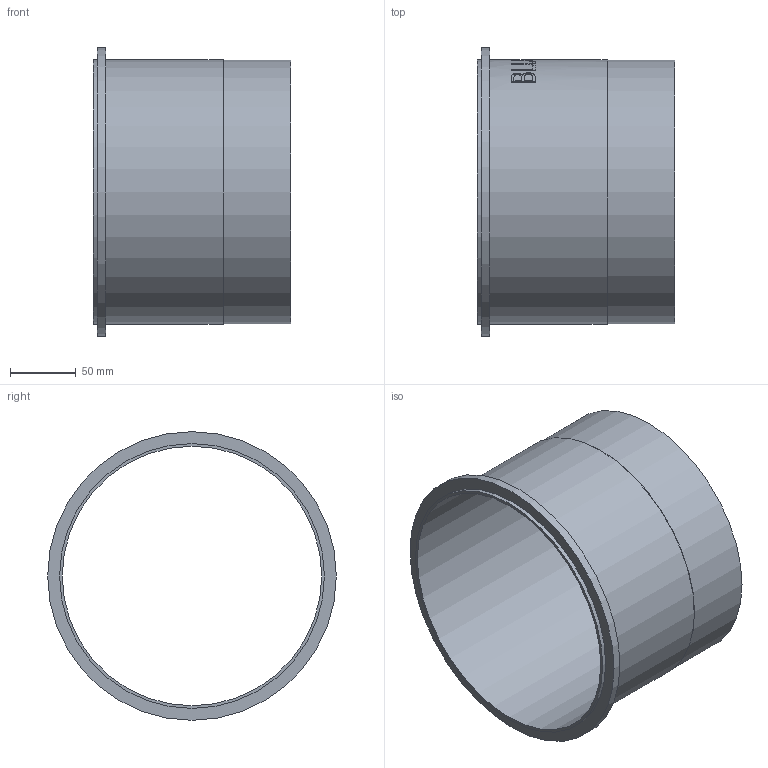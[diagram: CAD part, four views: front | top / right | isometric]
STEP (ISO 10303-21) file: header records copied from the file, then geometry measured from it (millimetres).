
FILE_DESCRIPTION((''),'2;1');
FILE_NAME('I:\WATTS\3D_CAD\3D_CAD_Models\Blucher_Drains\P_StraightPipe\WebsiteFiles\3D\STEP\P8-0.5-316.stp','2009-12-03T08:55:32',('menesek'),(''),'Autodesk Inventor 2010','Autodesk Inventor 2010','');
FILE_SCHEMA(('AUTOMOTIVE_DESIGN { 1 0 10303 214 1 1 1 1 }'));
Length unit declared in the file: inch
Products named in the file (1): P8-0.5-316
Bounding box: 150 x 218.95 x 218.95 mm (x, y, z)
Volume: 211557 mm3; surface area: 202238.1 mm2
Topology: 1 solids, 1 shells, 109 faces, 285 edges, 190 vertices
Faces by surface type: plane 59, bspline 34, cylinder 16
Full cylindrical faces by diameter (mm): 196.85 x1, 199.898 x1, 200.914 x2, 218.948 x1
Entity records: 14215 total; most frequent: CARTESIAN_POINT 11837, ORIENTED_EDGE 548, DIRECTION 356, EDGE_CURVE 274, VERTEX_POINT 186, EDGE_LOOP 128, AXIS2_PLACEMENT_3D 120, VECTOR 116
